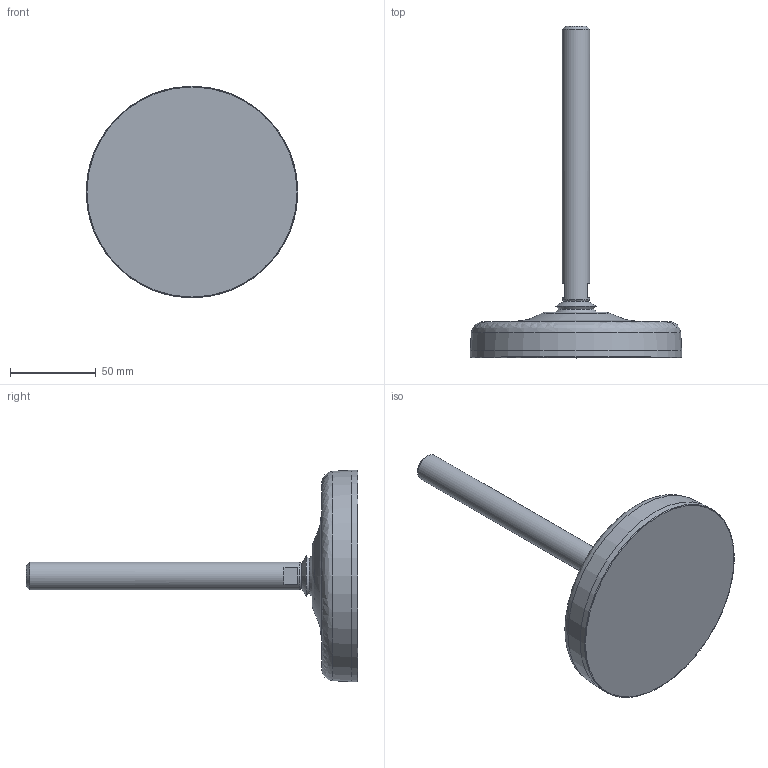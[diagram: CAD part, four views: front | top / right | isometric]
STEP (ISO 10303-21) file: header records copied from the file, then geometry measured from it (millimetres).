
FILE_DESCRIPTION(('STEP AP203'),'2;1');
FILE_NAME('18775.stp','2016-10-20T15:05:24',(''),(''),'2008.1.107','THINKDESIGN','');
FILE_SCHEMA(('CONFIG_CONTROL_DESIGN'));
Length unit declared in the file: millimetre
Bounding box: 123 x 193 x 123 mm (x, y, z)
Volume: 288850.7 mm3; surface area: 63767.2 mm2
Topology: 4 solids, 4 shells, 28 faces, 60 edges, 44 vertices
Faces by surface type: plane 16, bspline 10, cylinder 2
Full cylindrical faces by diameter (mm): 16 x1, 123 x1
Entity records: 1654 total; most frequent: CARTESIAN_POINT 929, DIRECTION 143, ORIENTED_EDGE 120, AXIS2_PLACEMENT_3D 65, EDGE_CURVE 60, CIRCLE 47, VERTEX_POINT 44, EDGE_LOOP 32
